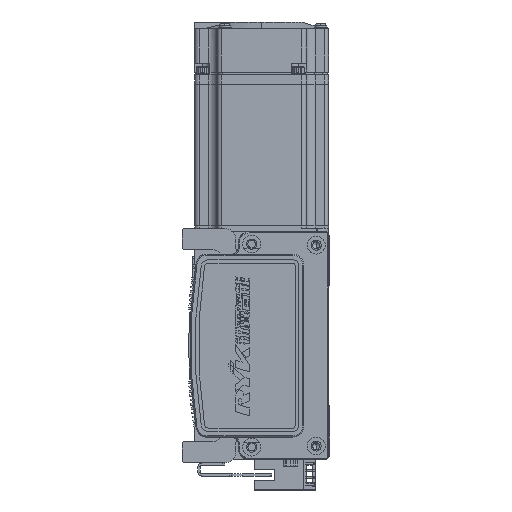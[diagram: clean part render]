
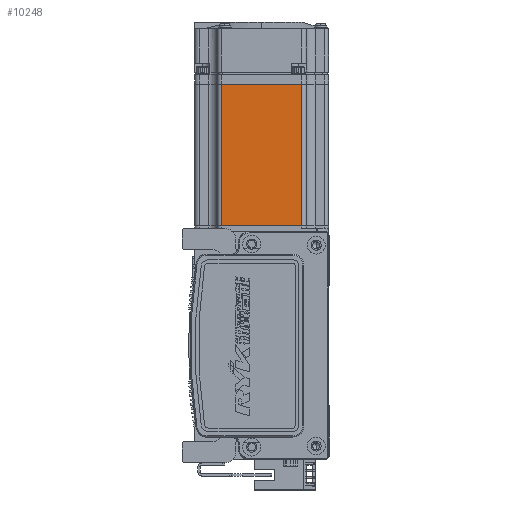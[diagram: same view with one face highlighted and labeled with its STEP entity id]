
A CAD part, left-side view. The second image highlights one B-rep face of the part: STEP entity #10248.
In plain terms, the highlighted planar face has unit normal (-1, 0, 0) as drawn and (0, 0, -1) by its records, which use the part's own axes.
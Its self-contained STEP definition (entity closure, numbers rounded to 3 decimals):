
#114 = VECTOR ( 'NONE', #40348, 1000. ) ;
#2085 = VECTOR ( 'NONE', #15587, 1000. ) ;
#2908 = DIRECTION ( 'NONE',  ( 0., 0., -1. ) ) ;
#3893 = CARTESIAN_POINT ( 'NONE',  ( -7.75, 18., -30. ) ) ;
#5361 = VECTOR ( 'NONE', #10356, 1000. ) ;
#10248 = ADVANCED_FACE ( 'NONE', ( #22409 ), #51266, .T. ) ;
#10356 = DIRECTION ( 'NONE',  ( -1., 0., 0. ) ) ;
#15587 = DIRECTION ( 'NONE',  ( 0., -1., 0. ) ) ;
#18603 = EDGE_CURVE ( 'NONE', #65611, #56700, #50549, .T. ) ;
#19944 = EDGE_LOOP ( 'NONE', ( #66727, #57219, #29720, #38003 ) ) ;
#21701 = VECTOR ( 'NONE', #46738, 1000. ) ;
#22409 = FACE_OUTER_BOUND ( 'NONE', #19944, .T. ) ;
#22516 = LINE ( 'NONE', #41396, #21701 ) ;
#23617 = LINE ( 'NONE', #56662, #114 ) ;
#24711 = VERTEX_POINT ( 'NONE', #44317 ) ;
#29098 = DIRECTION ( 'NONE',  ( -1., 0., 0. ) ) ;
#29720 = ORIENTED_EDGE ( 'NONE', *, *, #30672, .T. ) ;
#30672 = EDGE_CURVE ( 'NONE', #56700, #24711, #23617, .T. ) ;
#36856 = CARTESIAN_POINT ( 'NONE',  ( -70.95, -18., -30. ) ) ;
#38003 = ORIENTED_EDGE ( 'NONE', *, *, #66705, .T. ) ;
#40229 = CARTESIAN_POINT ( 'NONE',  ( -7.75, -18., -30. ) ) ;
#40348 = DIRECTION ( 'NONE',  ( 0., 1., 0. ) ) ;
#40795 = EDGE_CURVE ( 'NONE', #67904, #65611, #60554, .T. ) ;
#41396 = CARTESIAN_POINT ( 'NONE',  ( -6.5, 18., -30. ) ) ;
#41790 = AXIS2_PLACEMENT_3D ( 'NONE', #46075, #2908, #29098 ) ;
#44317 = CARTESIAN_POINT ( 'NONE',  ( -70.95, 18., -30. ) ) ;
#46075 = CARTESIAN_POINT ( 'NONE',  ( -6.5, 25., -30. ) ) ;
#46738 = DIRECTION ( 'NONE',  ( 1., 0., 0. ) ) ;
#50549 = LINE ( 'NONE', #64037, #5361 ) ;
#51266 = PLANE ( 'NONE',  #41790 ) ;
#56662 = CARTESIAN_POINT ( 'NONE',  ( -70.95, 25., -30. ) ) ;
#56700 = VERTEX_POINT ( 'NONE', #36856 ) ;
#57219 = ORIENTED_EDGE ( 'NONE', *, *, #18603, .T. ) ;
#60554 = LINE ( 'NONE', #63657, #2085 ) ;
#63657 = CARTESIAN_POINT ( 'NONE',  ( -7.75, 25., -30. ) ) ;
#64037 = CARTESIAN_POINT ( 'NONE',  ( -6.5, -18., -30. ) ) ;
#65611 = VERTEX_POINT ( 'NONE', #40229 ) ;
#66705 = EDGE_CURVE ( 'NONE', #24711, #67904, #22516, .T. ) ;
#66727 = ORIENTED_EDGE ( 'NONE', *, *, #40795, .T. ) ;
#67904 = VERTEX_POINT ( 'NONE', #3893 ) ;
